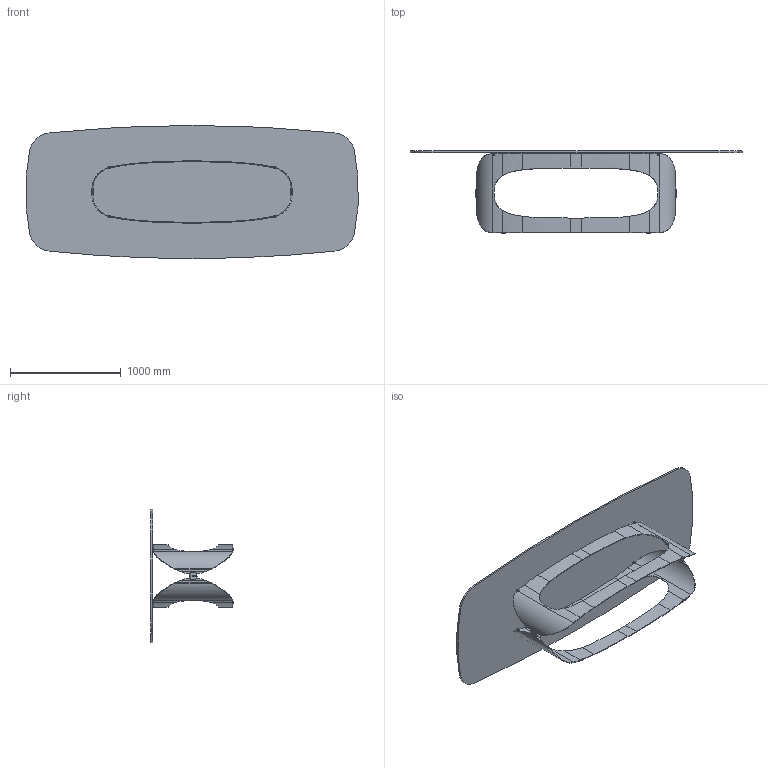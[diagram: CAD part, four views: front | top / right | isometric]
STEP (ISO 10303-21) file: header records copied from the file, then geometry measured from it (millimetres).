
FILE_DESCRIPTION (( 'STEP AP203' ), '1' );
FILE_NAME ('PO44G_Polifemo_300x120_.STEP', '2024-08-06T14:18:41', ( '' ), ( '' ), 'SwSTEP 2.0', 'SolidWorks 2022', '' );
FILE_SCHEMA (( 'CONFIG_CONTROL_DESIGN' ));
Length unit declared in the file: millimetre
Products named in the file (11): POL000001-00-POLIFEMO BASE L300 GREZZO; POL000000_03-01-POLIFEMO FREGIO COMPLETO; C4XCRXX-00-Piani Sagomati in Cristallo_3000 x 1200; PO44G_Polifemo_300x120_; POL000000_03A-01-POLIFEMO FREGIO; POL000001_01-00-MEZZA BASE POLIFEMO L300 GREZZO; POL000000_03B-00-POLIFEMO FREGIO; PST0GR022-01-PIASTRA D22x22H mm+FILETTO M8 AVP-AVZ GREZZO; PVC profilo Polifemo 9x8; POL000000_02-02-CILINDRO DI FISSAGGIO Ø12X15 M8; PVC Ø19x3
Assembly tree (24 placements, depth 3):
  PO44G_Polifemo_300x120_
    POL000001-00-POLIFEMO BASE L300 GREZZO
      POL000001_01-00-MEZZA BASE POLIFEMO L300 GREZZO  x2
      POL000000_02-02-CILINDRO DI FISSAGGIO Ø12X15 M8  x4
    POL000000_03-01-POLIFEMO FREGIO COMPLETO  x2
      POL000000_03A-01-POLIFEMO FREGIO
      POL000000_03B-00-POLIFEMO FREGIO
    PST0GR022-01-PIASTRA D22x22H mm+FILETTO M8 AVP-AVZ GREZZO  x4
    PVC Ø19x3  x4
    PVC profilo Polifemo 9x8  x3
    C4XCRXX-00-Piani Sagomati in Cristallo_3000 x 1200
Bounding box: 2991.72 x 739.97 x 1200 mm (x, y, z)
Volume: 59543894.3 mm3; surface area: 10032734.2 mm2
Topology: 24 solids, 24 shells, 577 faces, 1443 edges, 920 vertices
Faces by surface type: cylinder 254, bspline 152, plane 151, cone 20
Entity records: 16832 total; most frequent: CARTESIAN_POINT 10345, ORIENTED_EDGE 1170, DIRECTION 824, EDGE_CURVE 585, VERTEX_POINT 372, AXIS2_PLACEMENT_3D 313, EDGE_LOOP 237, FACE_OUTER_BOUND 231
